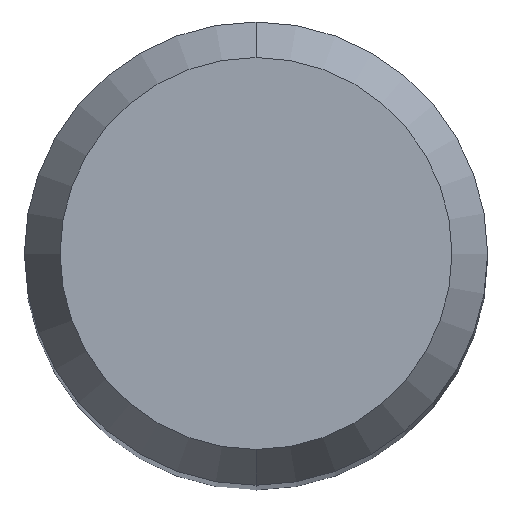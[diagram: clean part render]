
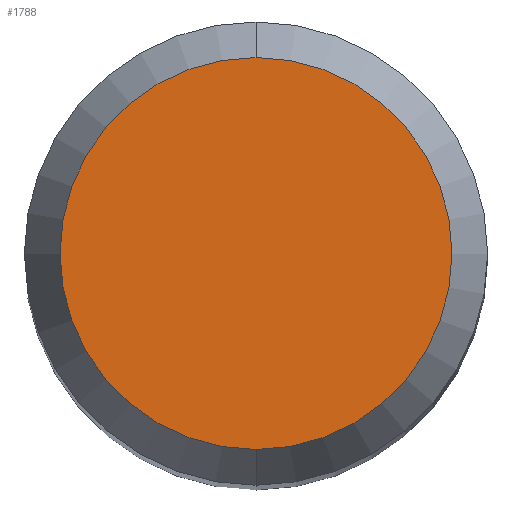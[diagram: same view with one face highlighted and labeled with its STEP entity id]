
A CAD part, top view. The second image highlights one B-rep face of the part: STEP entity #1788.
In plain terms, the highlighted planar face has unit normal (0, 0, 1).
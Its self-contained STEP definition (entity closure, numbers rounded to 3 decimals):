
#770=EDGE_CURVE('',#894,#1432,#2149,.T.);
#894=VERTEX_POINT('',#2284);
#1396=EDGE_CURVE('',#1432,#894,#2833,.T.);
#1432=VERTEX_POINT('',#2874);
#1788=ADVANCED_FACE('',(#3265),#3266,.T.);
#2149=CIRCLE('',#4046,2.538);
#2284=CARTESIAN_POINT('',(0.,-2.538,0.0));
#2833=CIRCLE('',#10973,2.538);
#2874=CARTESIAN_POINT('',(0.0,2.538,0.0));
#3265=FACE_OUTER_BOUND('',#15601,.T.);
#3266=PLANE('',#15602);
#4046=AXIS2_PLACEMENT_3D('',#17161,#17162,#17163);
#10973=AXIS2_PLACEMENT_3D('',#17795,#17796,#17797);
#15601=EDGE_LOOP('',(#18224,#18225));
#15602=AXIS2_PLACEMENT_3D('',#18226,#18227,#18228);
#17161=CARTESIAN_POINT('',(0.0,0.0,0.0));
#17162=DIRECTION('',(0.0,0.0,-1.0));
#17163=DIRECTION('',(0.0,1.0,0.0));
#17795=CARTESIAN_POINT('',(0.0,0.0,0.0));
#17796=DIRECTION('',(0.0,0.0,-1.0));
#17797=DIRECTION('',(0.0,1.0,0.0));
#18224=ORIENTED_EDGE('',*,*,#1396,.F.);
#18225=ORIENTED_EDGE('',*,*,#770,.F.);
#18226=CARTESIAN_POINT('',(0.0,1.269,0.0));
#18227=DIRECTION('',(-0.0,0.0,1.0));
#18228=DIRECTION('',(0.0,-1.0,0.0));
